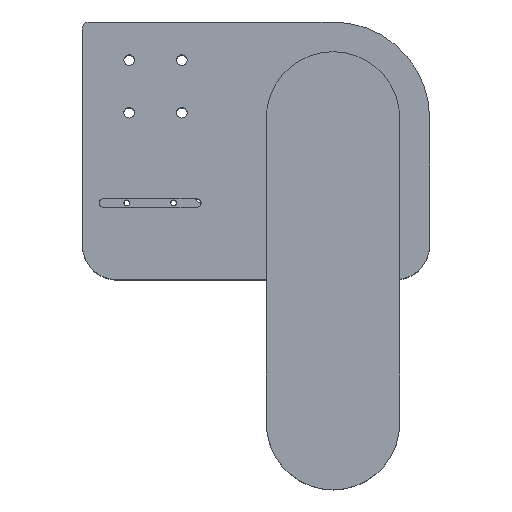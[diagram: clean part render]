
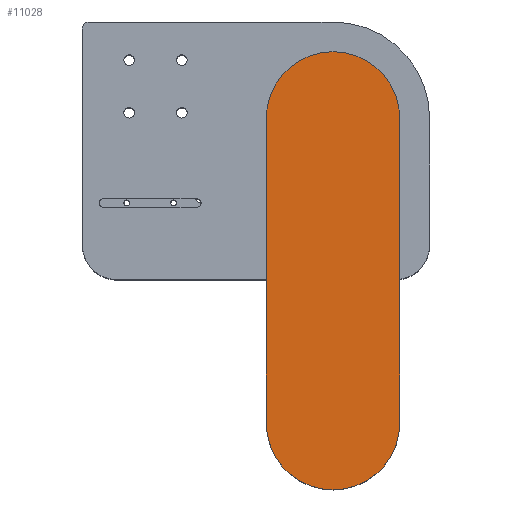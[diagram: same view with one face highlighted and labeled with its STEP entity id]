
A CAD part, top view. The second image highlights one B-rep face of the part: STEP entity #11028.
In plain terms, the highlighted planar face has unit normal (0, 0, 1).
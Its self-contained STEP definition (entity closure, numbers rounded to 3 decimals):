
#10833 = EDGE_CURVE ( 'NONE', #11016, #10887, #14148, .T. ) ;
#10837 = VERTEX_POINT ( 'NONE', #14150 ) ;
#10872 = EDGE_CURVE ( 'NONE', #10887, #10837, #14254, .T. ) ;
#10877 = EDGE_CURVE ( 'NONE', #10924, #11016, #14305, .T. ) ;
#10887 = VERTEX_POINT ( 'NONE', #14293 ) ;
#10924 = VERTEX_POINT ( 'NONE', #14236 ) ;
#11016 = VERTEX_POINT ( 'NONE', #14365 ) ;
#11017 = EDGE_CURVE ( 'NONE', #10837, #10924, #14348, .T. ) ;
#11028 = ADVANCED_FACE ( 'NONE', ( #14363 ), #14337, .F. ) ;
#11049 = ORIENTED_EDGE ( 'NONE', *, *, #10877, .F. ) ;
#11142 = ORIENTED_EDGE ( 'NONE', *, *, #10833, .F. ) ;
#11155 = EDGE_LOOP ( 'NONE', ( #11156, #11201, #11142, #11049 ) ) ;
#11156 = ORIENTED_EDGE ( 'NONE', *, *, #11017, .F. ) ;
#11201 = ORIENTED_EDGE ( 'NONE', *, *, #10872, .F. ) ;
#13994 = DIRECTION ( 'NONE',  ( 1., 0., 0. ) ) ;
#13995 = DIRECTION ( 'NONE',  ( 0., 0., -1. ) ) ;
#13996 = AXIS2_PLACEMENT_3D ( 'NONE', #14153, #13995, #13994 ) ;
#14148 = CIRCLE ( 'NONE', #13996, 57. ) ;
#14150 = CARTESIAN_POINT ( 'NONE',  ( -139.5, -82.5, 82. ) ) ;
#14153 = CARTESIAN_POINT ( 'NONE',  ( -82.5, -342.5, 82. ) ) ;
#14236 = CARTESIAN_POINT ( 'NONE',  ( -25.5, -82.5, 82. ) ) ;
#14254 = LINE ( 'NONE', #14315, #14314 ) ;
#14255 = CARTESIAN_POINT ( 'NONE',  ( -25.5, -82.5, 82. ) ) ;
#14293 = CARTESIAN_POINT ( 'NONE',  ( -139.5, -342.5, 82. ) ) ;
#14298 = DIRECTION ( 'NONE',  ( 0., -1., 0. ) ) ;
#14299 = VECTOR ( 'NONE', #14298, 1000. ) ;
#14305 = LINE ( 'NONE', #14255, #14299 ) ;
#14313 = DIRECTION ( 'NONE',  ( 0., 1., 0. ) ) ;
#14314 = VECTOR ( 'NONE', #14313, 1000. ) ;
#14315 = CARTESIAN_POINT ( 'NONE',  ( -139.5, -82.5, 82. ) ) ;
#14332 = DIRECTION ( 'NONE',  ( 1., 0., 0. ) ) ;
#14333 = DIRECTION ( 'NONE',  ( 0., 0., -1. ) ) ;
#14334 = CARTESIAN_POINT ( 'NONE',  ( -82.5, -82.5, 82. ) ) ;
#14335 = AXIS2_PLACEMENT_3D ( 'NONE', #14334, #14333, #14332 ) ;
#14337 = PLANE ( 'NONE',  #14335 ) ;
#14338 = DIRECTION ( 'NONE',  ( 1., 0., 0. ) ) ;
#14339 = DIRECTION ( 'NONE',  ( 0., 0., -1. ) ) ;
#14340 = CARTESIAN_POINT ( 'NONE',  ( -82.5, -82.5, 82. ) ) ;
#14341 = AXIS2_PLACEMENT_3D ( 'NONE', #14340, #14339, #14338 ) ;
#14348 = CIRCLE ( 'NONE', #14341, 57. ) ;
#14363 = FACE_OUTER_BOUND ( 'NONE', #11155, .T. ) ;
#14365 = CARTESIAN_POINT ( 'NONE',  ( -25.5, -342.5, 82. ) ) ;
